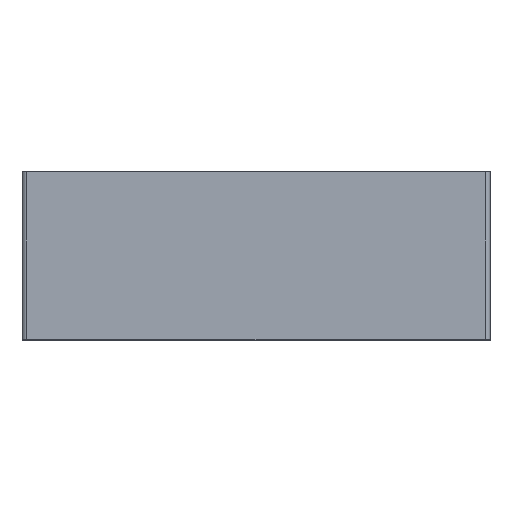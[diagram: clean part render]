
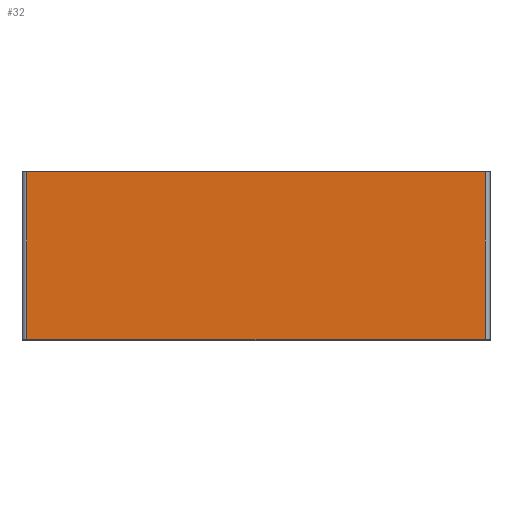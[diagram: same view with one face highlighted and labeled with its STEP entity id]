
A CAD part, top view. The second image highlights one B-rep face of the part: STEP entity #32.
In plain terms, the highlighted planar face has unit normal (0, 0, 1).
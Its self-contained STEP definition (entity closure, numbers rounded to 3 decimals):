
#32=ADVANCED_FACE('',(#72),#703,.T.);
#72=FACE_OUTER_BOUND('',#112,.T.);
#112=EDGE_LOOP('',(#194,#195,#196,#197));
#194=ORIENTED_EDGE('',*,*,#411,.T.);
#195=ORIENTED_EDGE('',*,*,#412,.T.);
#196=ORIENTED_EDGE('',*,*,#413,.F.);
#197=ORIENTED_EDGE('',*,*,#409,.F.);
#409=EDGE_CURVE('',#626,#627,#523,.T.);
#411=EDGE_CURVE('',#626,#628,#525,.T.);
#412=EDGE_CURVE('',#628,#629,#526,.T.);
#413=EDGE_CURVE('',#627,#629,#527,.T.);
#523=(
BOUNDED_CURVE()
B_SPLINE_CURVE(1,(#1109,#1110),.UNSPECIFIED.,.F.,.F.)
B_SPLINE_CURVE_WITH_KNOTS((2,2),(0.,70.),.UNSPECIFIED.)
CURVE()
GEOMETRIC_REPRESENTATION_ITEM()
RATIONAL_B_SPLINE_CURVE((1.,1.))
REPRESENTATION_ITEM('')
);
#525=(
BOUNDED_CURVE()
B_SPLINE_CURVE(2,(#1114,#1115,#1116),.UNSPECIFIED.,.F.,.F.)
B_SPLINE_CURVE_WITH_KNOTS((3,3),(3844.346,4035.346),
 .UNSPECIFIED.)
CURVE()
GEOMETRIC_REPRESENTATION_ITEM()
RATIONAL_B_SPLINE_CURVE((1.,1.,1.))
REPRESENTATION_ITEM('')
);
#526=(
BOUNDED_CURVE()
B_SPLINE_CURVE(1,(#1117,#1118),.UNSPECIFIED.,.F.,.F.)
B_SPLINE_CURVE_WITH_KNOTS((2,2),(0.,70.),.UNSPECIFIED.)
CURVE()
GEOMETRIC_REPRESENTATION_ITEM()
RATIONAL_B_SPLINE_CURVE((1.,1.))
REPRESENTATION_ITEM('')
);
#527=(
BOUNDED_CURVE()
B_SPLINE_CURVE(2,(#1119,#1120,#1121),.UNSPECIFIED.,.F.,.F.)
B_SPLINE_CURVE_WITH_KNOTS((3,3),(3844.346,4035.346),
 .UNSPECIFIED.)
CURVE()
GEOMETRIC_REPRESENTATION_ITEM()
RATIONAL_B_SPLINE_CURVE((1.,1.,1.))
REPRESENTATION_ITEM('')
);
#626=VERTEX_POINT('',#956);
#627=VERTEX_POINT('',#957);
#628=VERTEX_POINT('',#958);
#629=VERTEX_POINT('',#959);
#703=PLANE('',#818);
#818=AXIS2_PLACEMENT_3D('',#904,#861,$);
#861=DIRECTION('',(0.,0.,1.));
#904=CARTESIAN_POINT('',(1114.,0.,155.));
#956=CARTESIAN_POINT('',(1114.,0.,155.));
#957=CARTESIAN_POINT('',(1114.,70.,155.));
#958=CARTESIAN_POINT('',(1305.,0.,155.));
#959=CARTESIAN_POINT('',(1305.,70.,155.));
#1109=CARTESIAN_POINT('',(1114.,0.,155.));
#1110=CARTESIAN_POINT('',(1114.,70.,155.));
#1114=CARTESIAN_POINT('',(1114.,0.,155.));
#1115=CARTESIAN_POINT('',(1209.5,0.,155.));
#1116=CARTESIAN_POINT('',(1305.,0.,155.));
#1117=CARTESIAN_POINT('',(1305.,0.,155.));
#1118=CARTESIAN_POINT('',(1305.,70.,155.));
#1119=CARTESIAN_POINT('',(1114.,70.,155.));
#1120=CARTESIAN_POINT('',(1209.5,70.,155.));
#1121=CARTESIAN_POINT('',(1305.,70.,155.));
